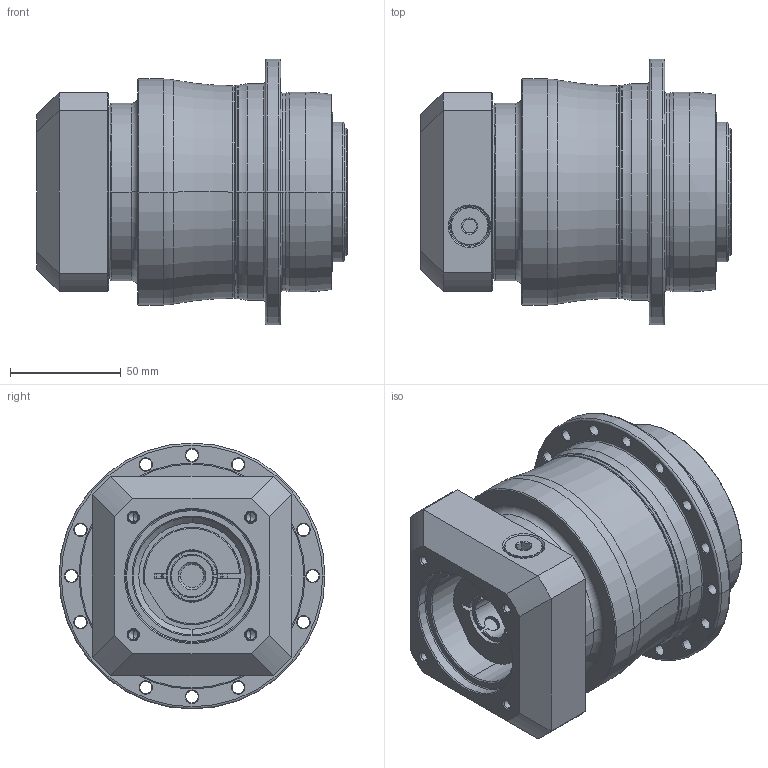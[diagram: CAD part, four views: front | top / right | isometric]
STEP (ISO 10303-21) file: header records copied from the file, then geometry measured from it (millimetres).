
FILE_DESCRIPTION((''),'2;1');
FILE_NAME('AP090_2ST_19-P0409400201_ASM','2018-10-16T',('d01226'),(''),'PRO/ENGINEER BY PARAMETRIC TECHNOLOGY CORPORATION, 2015240','PRO/ENGINEER BY PARAMETRIC TECHNOLOGY CORPORATION, 2015240','');
FILE_SCHEMA(('CONFIG_CONTROL_DESIGN'));
Length unit declared in the file: millimetre
Products named in the file (9): P0278301003; P0359301103; P1317310301; P0503400006; P0912203001; P1211300001; P0409400201; 21711412017; AP090_2ST_19-P0409400201_ASM
Assembly tree (8 placements, depth 2):
  AP090_2ST_19-P0409400201_ASM
    P0278301003
    P0359301103
    P1317310301
    P0503400006
    P0912203001
    P1211300001
    P0409400201
    21711412017
Bounding box: 140 x 120 x 120 mm (x, y, z)
Volume: 836094 mm3; surface area: 146412.8 mm2
Topology: 9 solids, 30 shells, 572 faces, 1317 edges, 810 vertices
Faces by surface type: cylinder 238, cone 146, plane 102, torus 72, bspline 14
Entity records: 20872 total; most frequent: CARTESIAN_POINT 7209, DIRECTION 3141, ORIENTED_EDGE 2532, AXIS2_PLACEMENT_3D 1346, EDGE_CURVE 1309, VERTEX_POINT 810, CIRCLE 761, EDGE_LOOP 699
